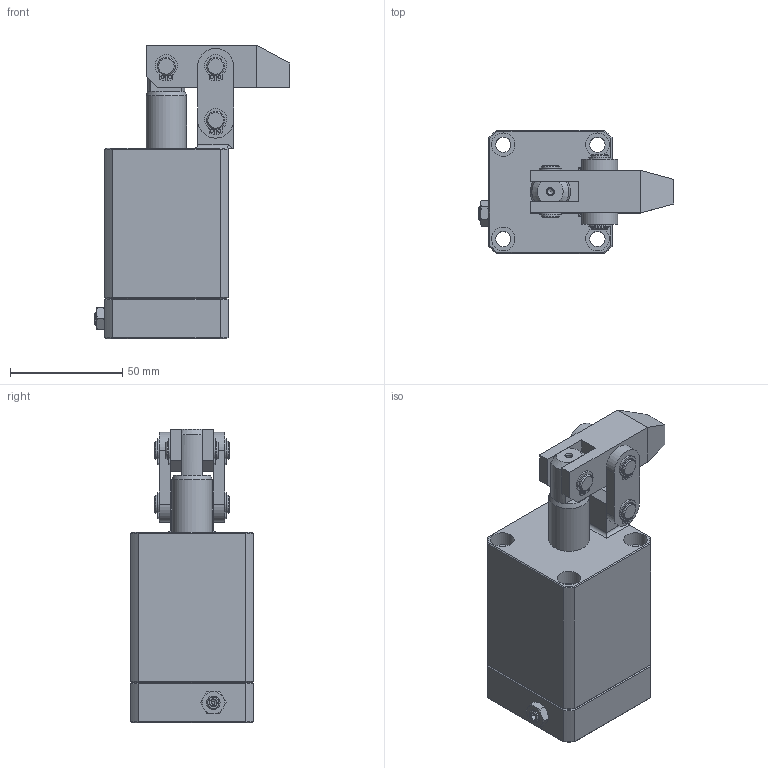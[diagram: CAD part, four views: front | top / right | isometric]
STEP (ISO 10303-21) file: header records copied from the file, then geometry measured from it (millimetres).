
FILE_DESCRIPTION(/* description */ ('Unknown'),/* implementation_level */ '2;1');
FILE_NAME(/* name */ 'HLC-MF25-A',/* time_stamp */ '2022-11-23T04:33:11+08:00',/* author */ ('Unknown'),/* organization */ ('Unknown'),/* preprocessor_version */ 'ST-DEVELOPER v16.7',/* originating_system */ 'DEX',/* authorisation */ $);
FILE_SCHEMA (('AUTOMOTIVE_DESIGN {1 0 10303 214 3 1 1}'));
Length unit declared in the file: millimetre
Products named in the file (8): HLC-MF25-A; HLC-MF25-CYLINDER; HLC-2502-AXLE CENTRE; HLC-25-A; HLC-25-墊; HLC-25-PINµu; HLC-25-PINªø·; HLC-25-Cｦｩｹ!
Assembly tree (14 placements, depth 2):
  HLC-MF25-A
    HLC-MF25-CYLINDER
    HLC-2502-AXLE CENTRE
    HLC-25-A
    HLC-25-墊  x2
    HLC-25-PINµu
    HLC-25-PINªø·  x2
    HLC-25-Cｦｩｹ!  x6
Bounding box: 87.1 x 55 x 131 mm (x, y, z)
Volume: 268638.1 mm3; surface area: 56455.4 mm2
Topology: 14 solids, 14 shells, 326 faces, 756 edges, 484 vertices
Faces by surface type: plane 138, cylinder 126, cone 48, bspline 12, torus 2
Full cylindrical faces by diameter (mm): 1.4 x12, 2.6 x1, 5 x2, 6 x1, 6.8 x4, 7.5 x6, 8 x18, 10 x2, 10.5 x4, 18 x2, 24.6 x1, 25 x1
Entity records: 6323 total; most frequent: CARTESIAN_POINT 1439, DIRECTION 948, ORIENTED_EDGE 876, EDGE_CURVE 438, AXIS2_PLACEMENT_3D 392, FACE_BOUND 323, EDGE_LOOP 322, VERTEX_POINT 299
